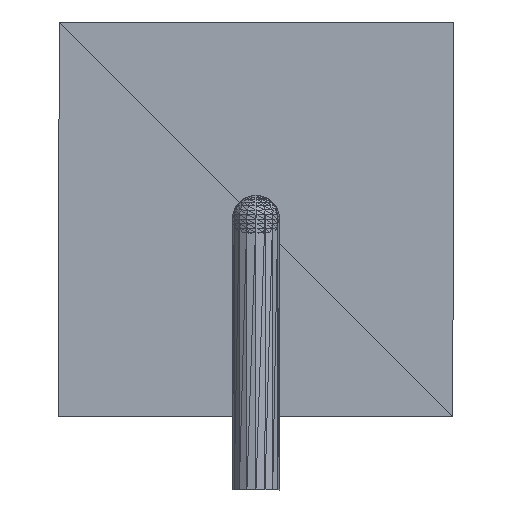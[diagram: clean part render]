
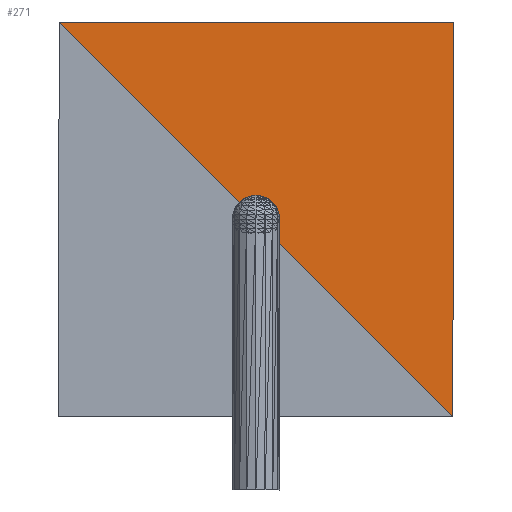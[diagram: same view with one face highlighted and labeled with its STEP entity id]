
A CAD part, left-side view. The second image highlights one B-rep face of the part: STEP entity #271.
In plain terms, the highlighted planar face has unit normal (-1, 0, 0).
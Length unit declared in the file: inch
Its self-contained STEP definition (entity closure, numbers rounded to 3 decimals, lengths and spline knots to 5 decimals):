
#66=CARTESIAN_POINT('',(-0.75,-0.2501,0.49995));
#67=VERTEX_POINT('',#66);
#68=CARTESIAN_POINT('',(-0.75,0.2499,0.50005));
#69=VERTEX_POINT('',#68);
#70=CARTESIAN_POINT('',(-0.75,-0.2501,0.49995));
#71=DIRECTION('',(0.,1.,0.));
#72=VECTOR('',#71,0.5);
#73=LINE('',#70,#72);
#74=EDGE_CURVE('',#67,#69,#73,.T.);
#121=CARTESIAN_POINT('',(-0.75,-0.25,-0.00005));
#122=VERTEX_POINT('',#121);
#123=CARTESIAN_POINT('',(-0.75,-0.25,-0.00005));
#124=DIRECTION('',(0.,0.,1.));
#125=VECTOR('',#124,0.5);
#126=LINE('',#123,#125);
#127=EDGE_CURVE('',#122,#67,#126,.T.);
#252=CARTESIAN_POINT('',(-0.75,-0.25,-0.00005));
#253=DIRECTION('',(0.,0.707,0.707));
#254=VECTOR('',#253,0.70711);
#255=LINE('',#252,#254);
#256=EDGE_CURVE('',#122,#69,#255,.T.);
#261=CARTESIAN_POINT('',(-0.75,0.2499,0.50005));
#262=DIRECTION('',(1.,0.,0.));
#263=DIRECTION('',(0.,1.,0.));
#264=AXIS2_PLACEMENT_3D('',#261,#262,#263);
#265=PLANE('',#264);
#266=ORIENTED_EDGE('',*,*,#256,.F.);
#267=ORIENTED_EDGE('',*,*,#127,.T.);
#268=ORIENTED_EDGE('',*,*,#74,.T.);
#269=EDGE_LOOP('',(#266,#267,#268));
#270=FACE_BOUND('',#269,.T.);
#271=ADVANCED_FACE('',(#270),#265,.F.);
